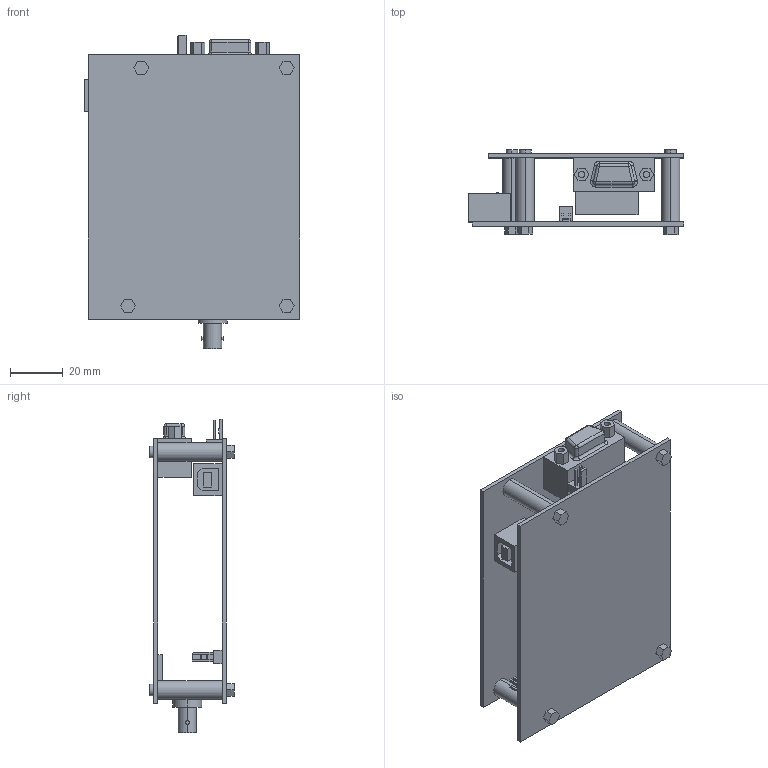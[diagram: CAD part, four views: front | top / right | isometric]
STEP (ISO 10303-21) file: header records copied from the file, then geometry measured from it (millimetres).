
FILE_DESCRIPTION (( 'STEP AP203' ), '1' );
FILE_NAME ('98-OPTC-18_REVA1.STEP', '2018-04-06T18:18:35', ( '' ), ( '' ), 'SwSTEP 2.0', 'SolidWorks 2017', '' );
FILE_SCHEMA (( 'CONFIG_CONTROL_DESIGN' ));
Length unit declared in the file: millimetre
Products named in the file (6): PCBBoards; RS232_Female; ST-PC; USB_TypeB; 98-OPTC-18_REVA1; 2Pin_.1in
Assembly tree (6 placements, depth 2):
  98-OPTC-18_REVA1
    PCBBoards
    RS232_Female
    USB_TypeB
    2Pin_.1in  x2
    ST-PC
Bounding box: 81.6 x 32 x 118.55 mm (x, y, z)
Volume: 39038.8 mm3; surface area: 40895.6 mm2
Topology: 6 solids, 6 shells, 207 faces, 492 edges, 317 vertices
Faces by surface type: plane 146, cylinder 51, torus 5, sphere 5
Entity records: 5831 total; most frequent: CARTESIAN_POINT 933, DIRECTION 897, ORIENTED_EDGE 844, EDGE_CURVE 422, LINE 319, VECTOR 319, AXIS2_PLACEMENT_3D 289, VERTEX_POINT 273
